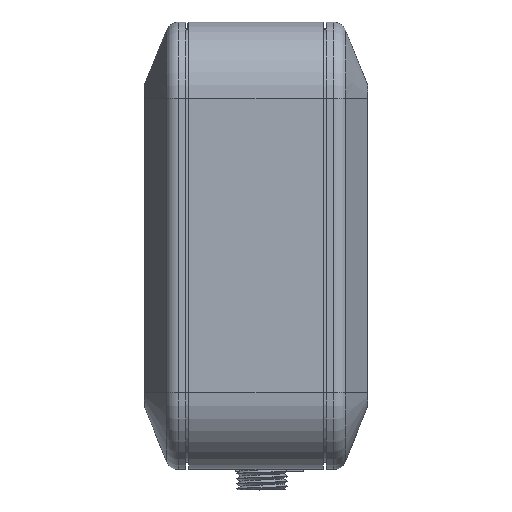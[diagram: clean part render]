
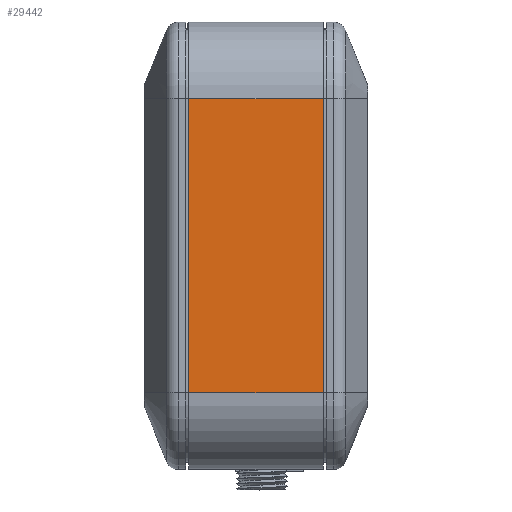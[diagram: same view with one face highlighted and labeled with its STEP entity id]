
A CAD part, left-side view. The second image highlights one B-rep face of the part: STEP entity #29442.
In plain terms, the highlighted planar face has unit normal (-1, 0, 0).
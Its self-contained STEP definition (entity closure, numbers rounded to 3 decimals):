
#2441=DIRECTION('',(0.,1.,0.));
#2442=VECTOR('',#2441,21.);
#2443=CARTESIAN_POINT('',(-78.5,-3.,-8.225));
#2444=LINE('',#2443,#2442);
#7277=DIRECTION('',(0.,0.,1.));
#7278=VECTOR('',#7277,46.);
#7279=CARTESIAN_POINT('',(-78.5,-3.,-8.225));
#7280=LINE('',#7279,#7278);
#7281=DIRECTION('',(0.,0.,-1.));
#7282=VECTOR('',#7281,46.);
#7283=CARTESIAN_POINT('',(-78.5,18.,37.775));
#7284=LINE('',#7283,#7282);
#7289=DIRECTION('',(0.,-1.,0.));
#7290=VECTOR('',#7289,21.);
#7291=CARTESIAN_POINT('',(-78.5,18.,37.775));
#7292=LINE('',#7291,#7290);
#17588=CARTESIAN_POINT('',(-78.5,18.,37.775));
#17589=CARTESIAN_POINT('',(-78.5,-3.,37.775));
#17590=VERTEX_POINT('',#17588);
#17591=VERTEX_POINT('',#17589);
#17596=CARTESIAN_POINT('',(-78.5,18.,-8.225));
#17597=VERTEX_POINT('',#17596);
#17598=CARTESIAN_POINT('',(-78.5,-3.,-8.225));
#17599=VERTEX_POINT('',#17598);
#29430=CARTESIAN_POINT('',(-78.5,-10.,49.775));
#29431=DIRECTION('',(-1.,0.,0.));
#29432=DIRECTION('',(0.,0.,-1.));
#29433=AXIS2_PLACEMENT_3D('',#29430,#29431,#29432);
#29434=PLANE('',#29433);
#29436=ORIENTED_EDGE('',*,*,#29435,.T.);
#29437=ORIENTED_EDGE('',*,*,#22743,.F.);
#29438=ORIENTED_EDGE('',*,*,#22727,.T.);
#29439=ORIENTED_EDGE('',*,*,#22696,.F.);
#29440=EDGE_LOOP('',(#29436,#29437,#29438,#29439));
#29441=FACE_OUTER_BOUND('',#29440,.F.);
#29442=ADVANCED_FACE('',(#29441),#29434,.T.);
#22696=EDGE_CURVE('',#17590,#17597,#7284,.T.);
#22727=EDGE_CURVE('',#17599,#17597,#2444,.T.);
#22743=EDGE_CURVE('',#17599,#17591,#7280,.T.);
#29435=EDGE_CURVE('',#17590,#17591,#7292,.T.);
